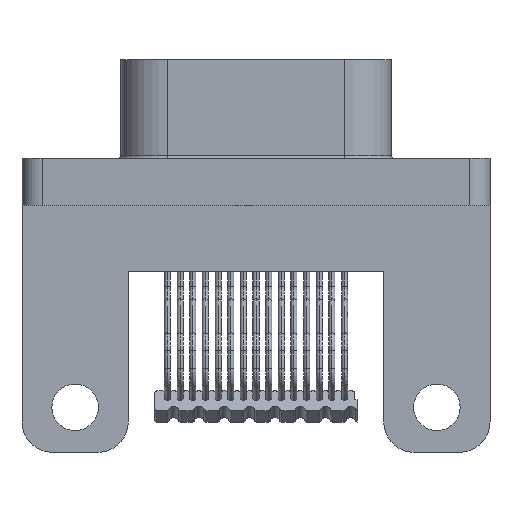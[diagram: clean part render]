
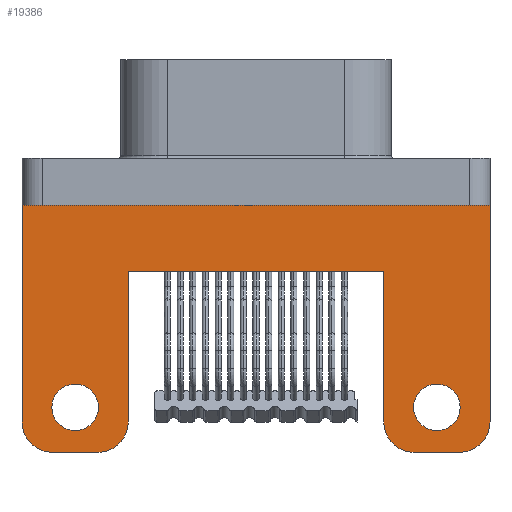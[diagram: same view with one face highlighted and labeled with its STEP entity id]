
A CAD part, front view. The second image highlights one B-rep face of the part: STEP entity #19386.
In plain terms, the highlighted planar face has unit normal (0, -1, 0).
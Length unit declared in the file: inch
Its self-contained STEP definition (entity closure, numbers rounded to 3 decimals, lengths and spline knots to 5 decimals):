
#292 = AXIS2_PLACEMENT_3D ( 'NONE', #1409, #24233, #9057 ) ;
#999 = VERTEX_POINT ( 'NONE', #20830 ) ;
#1119 = LINE ( 'NONE', #20615, #13767 ) ;
#1409 = CARTESIAN_POINT ( 'NONE',  ( 0.4625, -0.17, -1.16279 ) ) ;
#1477 = CARTESIAN_POINT ( 'NONE',  ( -0.4035, -0.17, -0.452 ) ) ;
#1970 = ORIENTED_EDGE ( 'NONE', *, *, #17188, .T. ) ;
#2126 = ORIENTED_EDGE ( 'NONE', *, *, #7095, .F. ) ;
#2128 = CARTESIAN_POINT ( 'NONE',  ( 0.3115, -0.17, -0.452 ) ) ;
#2364 = DIRECTION ( 'NONE',  ( 1., 0., 0. ) ) ;
#2393 = VERTEX_POINT ( 'NONE', #1477 ) ;
#2831 = CARTESIAN_POINT ( 'NONE',  ( 0.4025, -0.17, -0.541 ) ) ;
#3196 = LINE ( 'NONE', #13054, #28616 ) ;
#3575 = CARTESIAN_POINT ( 'NONE',  ( -0.2525, -0.17, -0.184 ) ) ;
#3722 = EDGE_LOOP ( 'NONE', ( #1970, #6037 ) ) ;
#3921 = LINE ( 'NONE', #29172, #9890 ) ;
#4064 = VERTEX_POINT ( 'NONE', #24741 ) ;
#4602 = AXIS2_PLACEMENT_3D ( 'NONE', #8158, #25884, #10672 ) ;
#5301 = EDGE_CURVE ( 'NONE', #6271, #2393, #24653, .T. ) ;
#5706 = VERTEX_POINT ( 'NONE', #10333 ) ;
#5824 = CARTESIAN_POINT ( 'NONE',  ( -0.3575, -0.17, -0.452 ) ) ;
#6037 = ORIENTED_EDGE ( 'NONE', *, *, #28134, .T. ) ;
#6142 = VERTEX_POINT ( 'NONE', #23843 ) ;
#6239 = AXIS2_PLACEMENT_3D ( 'NONE', #9369, #27120, #11878 ) ;
#6271 = VERTEX_POINT ( 'NONE', #9210 ) ;
#6291 = DIRECTION ( 'NONE',  ( -1., 0., 0. ) ) ;
#7095 = EDGE_CURVE ( 'NONE', #28454, #28706, #3921, .T. ) ;
#7319 = CARTESIAN_POINT ( 'NONE',  ( 0.4025, -0.17, -0.481 ) ) ;
#7572 = ORIENTED_EDGE ( 'NONE', *, *, #27118, .T. ) ;
#8004 = DIRECTION ( 'NONE',  ( 0., 1., 0. ) ) ;
#8011 = EDGE_CURVE ( 'NONE', #28149, #4064, #1119, .T. ) ;
#8158 = CARTESIAN_POINT ( 'NONE',  ( 0.3125, -0.17, -0.481 ) ) ;
#8403 = DIRECTION ( 'NONE',  ( 0., 0., 1. ) ) ;
#8761 = VECTOR ( 'NONE', #27763, 39.37008 ) ;
#9057 = DIRECTION ( 'NONE',  ( 0., 0., 1. ) ) ;
#9087 = VERTEX_POINT ( 'NONE', #21325 ) ;
#9210 = CARTESIAN_POINT ( 'NONE',  ( -0.3115, -0.17, -0.452 ) ) ;
#9211 = CIRCLE ( 'NONE', #12706, 0.046 ) ;
#9369 = CARTESIAN_POINT ( 'NONE',  ( -0.4025, -0.17, -0.481 ) ) ;
#9866 = DIRECTION ( 'NONE',  ( 0., 0., 1. ) ) ;
#9884 = ORIENTED_EDGE ( 'NONE', *, *, #24243, .T. ) ;
#9890 = VECTOR ( 'NONE', #6291, 39.37008 ) ;
#10333 = CARTESIAN_POINT ( 'NONE',  ( 0.2525, -0.17, -0.481 ) ) ;
#10403 = CARTESIAN_POINT ( 'NONE',  ( -0.3125, -0.17, -0.541 ) ) ;
#10672 = DIRECTION ( 'NONE',  ( 0., 0., 1. ) ) ;
#10966 = VERTEX_POINT ( 'NONE', #2128 ) ;
#10977 = ORIENTED_EDGE ( 'NONE', *, *, #25326, .T. ) ;
#11046 = CARTESIAN_POINT ( 'NONE',  ( -0.4025, -0.17, -0.541 ) ) ;
#11216 = CARTESIAN_POINT ( 'NONE',  ( 0.2525, -0.17, -0.184 ) ) ;
#11521 = CARTESIAN_POINT ( 'NONE',  ( 0.3575, -0.17, -0.452 ) ) ;
#11706 = EDGE_CURVE ( 'NONE', #5706, #26451, #27917, .T. ) ;
#11707 = AXIS2_PLACEMENT_3D ( 'NONE', #11521, #29323, #14089 ) ;
#11715 = CARTESIAN_POINT ( 'NONE',  ( -0.3125, -0.17, -0.481 ) ) ;
#11872 = AXIS2_PLACEMENT_3D ( 'NONE', #5824, #23573, #8403 ) ;
#11878 = DIRECTION ( 'NONE',  ( 0., 0., 1. ) ) ;
#12456 = ORIENTED_EDGE ( 'NONE', *, *, #28572, .F. ) ;
#12618 = DIRECTION ( 'NONE',  ( -1., 0., 0. ) ) ;
#12706 = AXIS2_PLACEMENT_3D ( 'NONE', #23165, #8004, #25724 ) ;
#13001 = EDGE_CURVE ( 'NONE', #4064, #999, #26936, .T. ) ;
#13036 = CIRCLE ( 'NONE', #6239, 0.06 ) ;
#13054 = CARTESIAN_POINT ( 'NONE',  ( 0.2525, -0.17, -1.3404 ) ) ;
#13139 = EDGE_CURVE ( 'NONE', #9087, #999, #30506, .T. ) ;
#13598 = ORIENTED_EDGE ( 'NONE', *, *, #5301, .T. ) ;
#13767 = VECTOR ( 'NONE', #23170, 39.37008 ) ;
#13821 = EDGE_LOOP ( 'NONE', ( #23276, #28944, #2126, #7572, #29219, #10977, #12456, #29428, #31412, #9884, #13967, #25199 ) ) ;
#13967 = ORIENTED_EDGE ( 'NONE', *, *, #8011, .T. ) ;
#14089 = DIRECTION ( 'NONE',  ( 0., 0., 1. ) ) ;
#14149 = DIRECTION ( 'NONE',  ( 0., 1., 0. ) ) ;
#14275 = DIRECTION ( 'NONE',  ( 0., 0., 1. ) ) ;
#14317 = CIRCLE ( 'NONE', #11707, 0.046 ) ;
#15867 = EDGE_CURVE ( 'NONE', #23869, #28061, #30729, .T. ) ;
#16157 = CIRCLE ( 'NONE', #25207, 0.06 ) ;
#17188 = EDGE_CURVE ( 'NONE', #10966, #6142, #9211, .T. ) ;
#17677 = DIRECTION ( 'NONE',  ( 0., 0., 1. ) ) ;
#17853 = EDGE_CURVE ( 'NONE', #2393, #6271, #26228, .T. ) ;
#17865 = EDGE_LOOP ( 'NONE', ( #31596, #13598 ) ) ;
#18262 = VERTEX_POINT ( 'NONE', #11216 ) ;
#18450 = FACE_BOUND ( 'NONE', #17865, .T. ) ;
#19237 = FACE_BOUND ( 'NONE', #3722, .T. ) ;
#19356 = AXIS2_PLACEMENT_3D ( 'NONE', #11715, #29510, #14275 ) ;
#19386 = ADVANCED_FACE ( 'NONE', ( #19237, #18450, #25990 ), #24130, .F. ) ;
#20164 = VECTOR ( 'NONE', #12618, 39.37008 ) ;
#20185 = CARTESIAN_POINT ( 'NONE',  ( 0.4625, -0.17, -0.053 ) ) ;
#20615 = CARTESIAN_POINT ( 'NONE',  ( 0.4625, -0.17, -1.16279 ) ) ;
#20830 = CARTESIAN_POINT ( 'NONE',  ( -0.4625, -0.17, -0.053 ) ) ;
#21325 = CARTESIAN_POINT ( 'NONE',  ( -0.4625, -0.17, -0.481 ) ) ;
#21685 = VECTOR ( 'NONE', #2364, 39.37008 ) ;
#21918 = CIRCLE ( 'NONE', #19356, 0.06 ) ;
#22258 = LINE ( 'NONE', #25171, #8761 ) ;
#22507 = LINE ( 'NONE', #22531, #21685 ) ;
#22531 = CARTESIAN_POINT ( 'NONE',  ( 0.4625, -0.17, -0.184 ) ) ;
#22911 = VECTOR ( 'NONE', #30968, 39.37008 ) ;
#22959 = CARTESIAN_POINT ( 'NONE',  ( 0.3125, -0.17, -0.541 ) ) ;
#23161 = CARTESIAN_POINT ( 'NONE',  ( -0.4625, -0.17, -1.16279 ) ) ;
#23165 = CARTESIAN_POINT ( 'NONE',  ( 0.3575, -0.17, -0.452 ) ) ;
#23170 = DIRECTION ( 'NONE',  ( 0., 0., 1. ) ) ;
#23181 = VERTEX_POINT ( 'NONE', #2831 ) ;
#23276 = ORIENTED_EDGE ( 'NONE', *, *, #13139, .F. ) ;
#23393 = CARTESIAN_POINT ( 'NONE',  ( -0.2525, -0.17, -0.481 ) ) ;
#23573 = DIRECTION ( 'NONE',  ( 0., 1., 0. ) ) ;
#23843 = CARTESIAN_POINT ( 'NONE',  ( 0.4035, -0.17, -0.452 ) ) ;
#23869 = VERTEX_POINT ( 'NONE', #23393 ) ;
#24130 = PLANE ( 'NONE',  #292 ) ;
#24194 = CARTESIAN_POINT ( 'NONE',  ( 0.4625, -0.17, -0.481 ) ) ;
#24233 = DIRECTION ( 'NONE',  ( 0., 1., 0. ) ) ;
#24243 = EDGE_CURVE ( 'NONE', #23181, #28149, #16157, .T. ) ;
#24653 = CIRCLE ( 'NONE', #11872, 0.046 ) ;
#24741 = CARTESIAN_POINT ( 'NONE',  ( 0.4625, -0.17, -0.053 ) ) ;
#25042 = DIRECTION ( 'NONE',  ( 0., -1., 0. ) ) ;
#25171 = CARTESIAN_POINT ( 'NONE',  ( 0., -0.17, -0.541 ) ) ;
#25199 = ORIENTED_EDGE ( 'NONE', *, *, #13001, .T. ) ;
#25207 = AXIS2_PLACEMENT_3D ( 'NONE', #7319, #25042, #9866 ) ;
#25326 = EDGE_CURVE ( 'NONE', #28061, #18262, #22507, .T. ) ;
#25724 = DIRECTION ( 'NONE',  ( 0., 0., 1. ) ) ;
#25884 = DIRECTION ( 'NONE',  ( 0., -1., 0. ) ) ;
#25990 = FACE_OUTER_BOUND ( 'NONE', #13821, .T. ) ;
#26228 = CIRCLE ( 'NONE', #30198, 0.046 ) ;
#26451 = VERTEX_POINT ( 'NONE', #22959 ) ;
#26936 = LINE ( 'NONE', #20185, #20164 ) ;
#27118 = EDGE_CURVE ( 'NONE', #28454, #23869, #21918, .T. ) ;
#27120 = DIRECTION ( 'NONE',  ( 0., -1., 0. ) ) ;
#27763 = DIRECTION ( 'NONE',  ( -1., 0., 0. ) ) ;
#27806 = CARTESIAN_POINT ( 'NONE',  ( -0.2525, -0.17, -1.3404 ) ) ;
#27917 = CIRCLE ( 'NONE', #4602, 0.06 ) ;
#28061 = VERTEX_POINT ( 'NONE', #3575 ) ;
#28134 = EDGE_CURVE ( 'NONE', #6142, #10966, #14317, .T. ) ;
#28149 = VERTEX_POINT ( 'NONE', #24194 ) ;
#28184 = DIRECTION ( 'NONE',  ( 0., 0., 1. ) ) ;
#28374 = EDGE_CURVE ( 'NONE', #23181, #26451, #22258, .T. ) ;
#28454 = VERTEX_POINT ( 'NONE', #10403 ) ;
#28572 = EDGE_CURVE ( 'NONE', #5706, #18262, #3196, .T. ) ;
#28616 = VECTOR ( 'NONE', #28184, 39.37008 ) ;
#28706 = VERTEX_POINT ( 'NONE', #11046 ) ;
#28944 = ORIENTED_EDGE ( 'NONE', *, *, #29452, .T. ) ;
#29172 = CARTESIAN_POINT ( 'NONE',  ( 0., -0.17, -0.541 ) ) ;
#29219 = ORIENTED_EDGE ( 'NONE', *, *, #15867, .T. ) ;
#29323 = DIRECTION ( 'NONE',  ( 0., 1., 0. ) ) ;
#29378 = CARTESIAN_POINT ( 'NONE',  ( -0.3575, -0.17, -0.452 ) ) ;
#29428 = ORIENTED_EDGE ( 'NONE', *, *, #11706, .T. ) ;
#29452 = EDGE_CURVE ( 'NONE', #9087, #28706, #13036, .T. ) ;
#29510 = DIRECTION ( 'NONE',  ( 0., -1., 0. ) ) ;
#29936 = VECTOR ( 'NONE', #17677, 39.37008 ) ;
#30198 = AXIS2_PLACEMENT_3D ( 'NONE', #29378, #14149, #31930 ) ;
#30506 = LINE ( 'NONE', #23161, #22911 ) ;
#30729 = LINE ( 'NONE', #27806, #29936 ) ;
#30968 = DIRECTION ( 'NONE',  ( 0., 0., 1. ) ) ;
#31412 = ORIENTED_EDGE ( 'NONE', *, *, #28374, .F. ) ;
#31596 = ORIENTED_EDGE ( 'NONE', *, *, #17853, .T. ) ;
#31930 = DIRECTION ( 'NONE',  ( 0., 0., 1. ) ) ;
